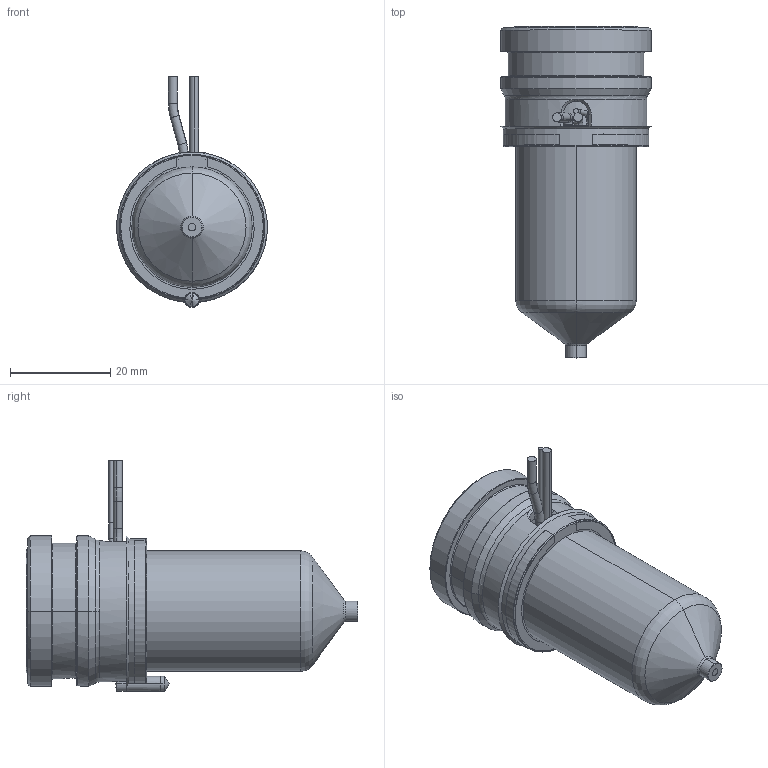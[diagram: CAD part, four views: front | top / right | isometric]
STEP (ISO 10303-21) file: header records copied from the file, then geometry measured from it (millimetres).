
FILE_DESCRIPTION((''),'2;1');
FILE_NAME('MPN-10-29-VP4-046-A','2026-02-05T12:42:02',('UPTIO'),('Thermoplay S.p.A.'),'CREO PARAMETRIC BY PTC INC, 2023494','CREO PARAMETRIC BY PTC INC, 2023494','');
FILE_SCHEMA(('CONFIG_CONTROL_DESIGN','SHAPE_APPEARANCE_LAYERS_GROUPS'));
Length unit declared in the file: millimetre
Products named in the file (1): MPN-10-29-VP4-046-A
Bounding box: 30 x 66.1 x 46 mm (x, y, z)
Volume: 22463.4 mm3; surface area: 21347.9 mm2
Topology: 2 solids, 3 shells, 554 faces, 1479 edges, 924 vertices
Faces by surface type: cylinder 178, plane 145, bspline 87, cone 68, torus 65, sphere 7, extrusion 4
Entity records: 30112 total; most frequent: CARTESIAN_POINT 13953, ORIENTED_EDGE 2946, DIRECTION 2572, EDGE_CURVE 1473, AXIS2_PLACEMENT_3D 1014, VERTEX_POINT 924, EDGE_LOOP 581, FACE_OUTER_BOUND 554
